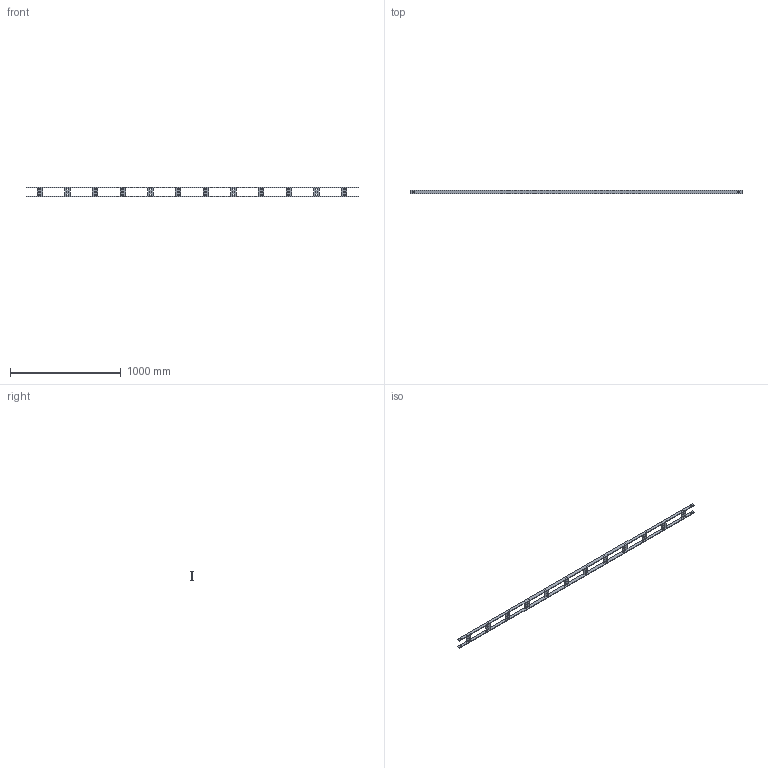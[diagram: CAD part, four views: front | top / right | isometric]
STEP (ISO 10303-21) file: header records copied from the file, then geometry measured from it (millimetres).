
FILE_DESCRIPTION(('Creo Elements/Direct Modeling STEP Export'),'2;1');
FILE_NAME('//pserver/office/EK/ME10-3D/3D-output/SKL 075F.stp','2020-03-10T 9:32:18',(''),(''),'PTC Creo Elements/Direct Modeling STEP processor for AP214 (Solid Model)','PTC Creo Elements/Direct Modeling 19.0C 15-Aug-2015 (C) Parametric Technology GmbH','');
FILE_SCHEMA(('AUTOMOTIVE_DESIGN { 1 0 10303 214 1 1 1 1 }'));
Length unit declared in the file: millimetre
Products named in the file (3): SKL_Holm-L3000; SKLSP_0075B.006; SKL_075F
Assembly tree (14 placements, depth 2):
  SKL_075F
    SKLSP_0075B.006  x12
    SKL_Holm-L3000  x2
Bounding box: 3000 x 30 x 85 mm (x, y, z)
Volume: 1057321.9 mm3; surface area: 519637.5 mm2
Topology: 14 solids, 14 shells, 244 faces, 648 edges, 432 vertices
Faces by surface type: plane 164, cylinder 80
Entity records: 1179 total; most frequent: DIRECTION 198, CARTESIAN_POINT 187, ORIENTED_EDGE 168, EDGE_CURVE 84, AXIS2_PLACEMENT_3D 67, VECTOR 64, LINE 64, VERTEX_POINT 56
